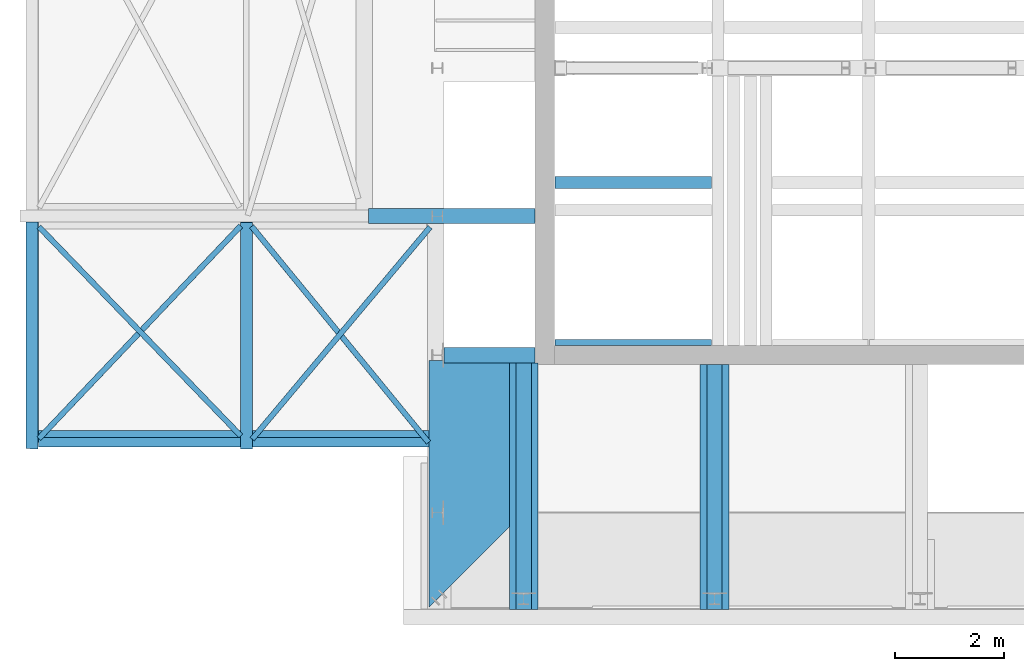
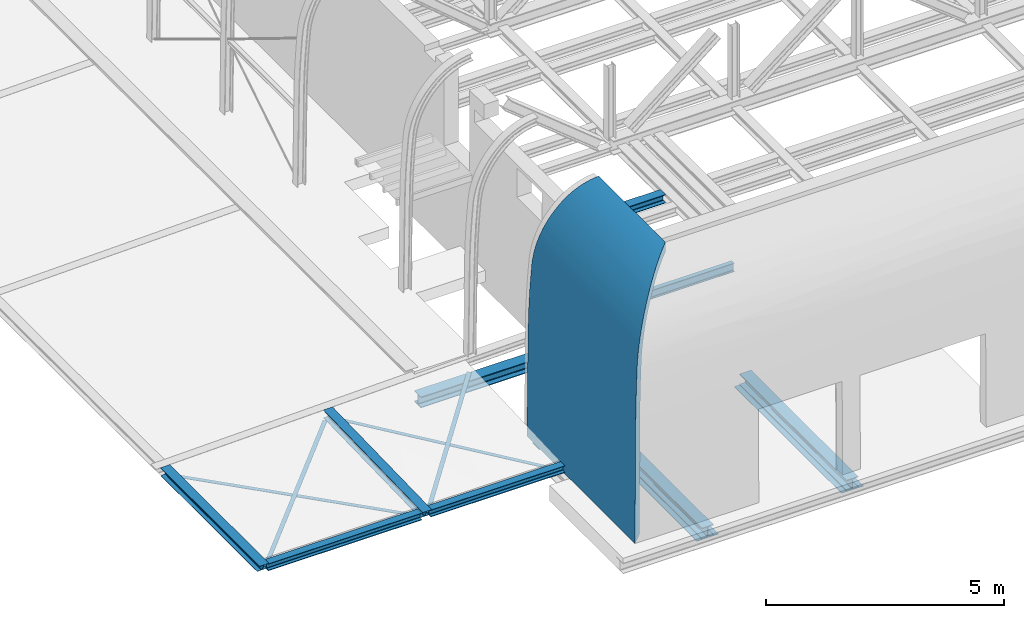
# One storey, part 7 of 29: 15 beams.
"""IFC2X3 building model written with IfcOpenShell, lengths in millimetres."""

from ifc_helpers import new_model, entity, si_unit, converted_unit, derived_unit, direction, frame, frame_2d, origin, place, context, subcontext, project, spatial, polyline, circle_curve, parameter, trimmed, segment, composite_curve, rectangle, i_section, outline, extrude, clip, halfspace, source, transform, mapped, material, material_list, type_object, type_shapes, element, save


model = new_model("IFC2X3")

# Units and contexts
model_context = context("Model", 3, precision=0.01, world=origin(), true_north=direction((6.12303176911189e-17, 1.0)))
body_context = subcontext(model_context, "Body", "Model", "MODEL_VIEW")
ifc_project = project(units=[si_unit("LENGTHUNIT", "METRE", prefix="MILLI"), si_unit("AREAUNIT", "SQUARE_METRE", prefix="MILLI"), si_unit("VOLUMEUNIT", "CUBIC_METRE"), converted_unit("PLANEANGLEUNIT", "DEGREE", entity("IfcRatioMeasure", 0.0174532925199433), si_unit("PLANEANGLEUNIT", "RADIAN"), dimensions=[0, 0, 0, 0, 0, 0, 0]), si_unit("MASSUNIT", "GRAM", prefix="KILO"), derived_unit("MASSDENSITYUNIT", [(si_unit("MASSUNIT", "GRAM", prefix="KILO"), 1), (si_unit("LENGTHUNIT", "METRE"), -3)]), derived_unit("MOMENTOFINERTIAUNIT", [(si_unit("LENGTHUNIT", "METRE"), 4)]), si_unit("TIMEUNIT", "SECOND"), si_unit("FREQUENCYUNIT", "HERTZ"), si_unit("THERMODYNAMICTEMPERATUREUNIT", "DEGREE_CELSIUS"), derived_unit("THERMALTRANSMITTANCEUNIT", [(si_unit("MASSUNIT", "GRAM", prefix="KILO"), 1), (si_unit("THERMODYNAMICTEMPERATUREUNIT", "KELVIN"), -1), (si_unit("TIMEUNIT", "SECOND"), -3)]), derived_unit("VOLUMETRICFLOWRATEUNIT", [(si_unit("LENGTHUNIT", "METRE"), 3), (si_unit("TIMEUNIT", "SECOND"), -1)]), si_unit("ELECTRICCURRENTUNIT", "AMPERE"), si_unit("ELECTRICVOLTAGEUNIT", "VOLT"), si_unit("POWERUNIT", "WATT"), si_unit("FORCEUNIT", "NEWTON", prefix="KILO"), si_unit("ILLUMINANCEUNIT", "LUX"), si_unit("LUMINOUSFLUXUNIT", "LUMEN"), si_unit("LUMINOUSINTENSITYUNIT", "CANDELA"), derived_unit("USERDEFINED", [(si_unit("MASSUNIT", "GRAM", prefix="KILO"), -1), (si_unit("LENGTHUNIT", "METRE"), -2), (si_unit("TIMEUNIT", "SECOND"), 3), (si_unit("LUMINOUSFLUXUNIT", "LUMEN"), 1)]), derived_unit("LINEARVELOCITYUNIT", [(si_unit("LENGTHUNIT", "METRE"), 1), (si_unit("TIMEUNIT", "SECOND"), -1)]), si_unit("PRESSUREUNIT", "PASCAL"), derived_unit("USERDEFINED", [(si_unit("LENGTHUNIT", "METRE"), -2), (si_unit("MASSUNIT", "GRAM", prefix="KILO"), 1), (si_unit("TIMEUNIT", "SECOND"), -2)]), derived_unit("LINEARFORCEUNIT", [(si_unit("MASSUNIT", "GRAM", prefix="KILO"), 1), (si_unit("LENGTHUNIT", "METRE"), 1), (si_unit("TIMEUNIT", "SECOND"), -2), (si_unit("LENGTHUNIT", "METRE"), -1)]), derived_unit("PLANARFORCEUNIT", [(si_unit("MASSUNIT", "GRAM", prefix="KILO"), 1), (si_unit("LENGTHUNIT", "METRE"), 1), (si_unit("TIMEUNIT", "SECOND"), -2), (si_unit("LENGTHUNIT", "METRE"), -2)])], contexts=[model_context])

# Site, building, storey
site_placement = place(None, origin())
site = spatial("IfcSite", under=ifc_project, at=site_placement, Name="Theater aan de Parade", CompositionType="ELEMENT")
building_placement = place(site_placement, origin())
building = spatial("IfcBuilding", under=site, at=building_placement, Name="Theater aan de Parade", CompositionType="ELEMENT")
storey_placement = place(building_placement, frame((0.0, 0.0, 20300.0)))
storey = spatial("IfcBuildingStorey", under=building, at=storey_placement, Name="05 vijfde verdieping", CompositionType="ELEMENT", Elevation=20300.0)

# Beams
ifc_material_1 = material(Name="00_PBT_MAT_staal_S355")
beam_type_1 = type_object("IfcBeamType", Name="28_PBT_SF_staal_H-profiel:S355_HE220B", PredefinedType="NOTDEFINED")
beam_1_placement = place(storey_placement, frame((70715.0, 22811.5, 0.0), z_axis=(0.0, 0.0, 1.0), x_axis=(-1.0, 0.0, 0.0)))
element("IfcBeam", 1, at=beam_1_placement, inside=storey, type_object=beam_type_1, material=ifc_material_1, Name="28_PBT_SF_staal_H-profiel:S355_HE220B", ObjectType="28_PBT_SF_staal_H-profiel:S355_HE220B", context=body_context, shape_type="SweptSolid", body=[
    extrude(outline(composite_curve([segment(polyline([(94.0, -110.0), (110.0, -110.0)]), True, "CONTINUOUS"), segment(polyline([(110.0, -110.0), (110.0, 110.0)]), True, "CONTINUOUS"), segment(polyline([(110.0, 110.0), (94.0, 110.0)]), True, "CONTINUOUS"), segment(polyline([(94.0, 110.0), (94.0, 22.7500000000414)]), True, "CONTINUOUS"), segment(trimmed(circle_curve(frame_2d((76.0, 22.7500000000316), x_axis=(1.0, 0.0)), 18.0000000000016), [parameter(270.0)], [parameter(0.0)], True, "PARAMETER"), False, "CONTINUOUS"), segment(polyline([(76.0, 4.75000000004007), (-76.0, 4.74999999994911)]), True, "CONTINUOUS"), segment(trimmed(circle_curve(frame_2d((-76.0, 22.7499999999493), x_axis=(0.0, -1.0)), 18.0000000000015), [parameter(270.0)], [parameter(0.0)], True, "PARAMETER"), False, "CONTINUOUS"), segment(polyline([(-94.0, 22.7499999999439), (-94.0, 110.0)]), True, "CONTINUOUS"), segment(polyline([(-94.0, 110.0), (-110.0, 110.0)]), True, "CONTINUOUS"), segment(polyline([(-110.0, 110.0), (-110.0, -110.0)]), True, "CONTINUOUS"), segment(polyline([(-110.0, -110.0), (-94.0, -110.0)]), True, "CONTINUOUS"), segment(polyline([(-94.0, -110.0), (-94.0, -22.7500000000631)]), True, "CONTINUOUS"), segment(trimmed(circle_curve(frame_2d((-76.0, -22.7500000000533), x_axis=(-1.0, 0.0)), 17.9999999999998), [parameter(270.0)], [parameter(0.0)], True, "PARAMETER"), False, "CONTINUOUS"), segment(polyline([(-76.0, -4.7500000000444), (76.0, -4.74999999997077)]), True, "CONTINUOUS"), segment(trimmed(circle_curve(frame_2d((76.0, -22.749999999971), x_axis=(0.0, 1.0)), 18.0000000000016), [parameter(270.0)], [parameter(0.0)], True, "PARAMETER"), False, "CONTINUOUS"), segment(polyline([(94.0, -22.7499999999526), (94.0, -110.0)]), True, "CONTINUOUS")], self_intersect=False)), frame((122.699999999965, 0.0, 2360.0), z_axis=(1.0, 0.0, 0.0), x_axis=(0.0, 0.0, -1.0)), (0.0, 0.0, 1.0), 2873.34389903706),
])
beam_type_2 = type_object("IfcBeamType", Name="28_PBT_SF_staal_H-profiel (void):S355_HE280B", PredefinedType="NOTDEFINED")
beam_2_placement = place(storey_placement, frame((65678.9041808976, 19635.0002435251, 0.0)))
element("IfcBeam", 2, at=beam_2_placement, inside=storey, type_object=beam_type_2, material=ifc_material_1, Name="28_PBT_SF_staal_H-profiel (void):S355_HE280B", ObjectType="28_PBT_SF_staal_H-profiel (void):S355_HE280B", context=body_context, shape_type="SweptSolid", body=[
    extrude(outline(composite_curve([segment(polyline([(122.0, -140.0), (140.0, -140.0)]), True, "CONTINUOUS"), segment(polyline([(140.0, -140.0), (140.0, 140.0)]), True, "CONTINUOUS"), segment(polyline([(140.0, 140.0), (122.0, 140.0)]), True, "CONTINUOUS"), segment(polyline([(122.0, 140.0), (122.0, 29.2499999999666)]), True, "CONTINUOUS"), segment(trimmed(circle_curve(frame_2d((98.0, 29.2499999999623), x_axis=(1.0, 0.0)), 23.9999999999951), [parameter(269.999999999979)], [parameter(0.0)], True, "PARAMETER"), False, "CONTINUOUS"), segment(polyline([(98.0, 5.24999999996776), (-98.0, 5.25000000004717)]), True, "CONTINUOUS"), segment(trimmed(circle_curve(frame_2d((-98.0, 29.2500000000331), x_axis=(0.0, -1.0)), 23.9999999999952), [parameter(269.999999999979)], [parameter(0.0)], True, "PARAMETER"), False, "CONTINUOUS"), segment(polyline([(-122.0, 29.250000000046), (-122.0, 140.0)]), True, "CONTINUOUS"), segment(polyline([(-122.0, 140.0), (-140.0, 140.0)]), True, "CONTINUOUS"), segment(polyline([(-140.0, 140.0), (-140.0, -140.0)]), True, "CONTINUOUS"), segment(polyline([(-140.0, -140.0), (-122.0, -140.0)]), True, "CONTINUOUS"), segment(polyline([(-122.0, -140.0), (-122.0, -29.2499999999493)]), True, "CONTINUOUS"), segment(trimmed(circle_curve(frame_2d((-98.0, -29.249999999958), x_axis=(-1.0, 0.0)), 23.9999999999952), [parameter(269.999999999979)], [parameter(0.0)], True, "PARAMETER"), False, "CONTINUOUS"), segment(polyline([(-98.0, -5.24999999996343), (98.0, -5.25000000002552)]), True, "CONTINUOUS"), segment(trimmed(circle_curve(frame_2d((98.0, -29.2500000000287), x_axis=(0.0, 1.0)), 23.9999999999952), [parameter(269.999999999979)], [parameter(0.0)], True, "PARAMETER"), False, "CONTINUOUS"), segment(polyline([(122.0, -29.2500000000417), (122.0, -140.0)]), True, "CONTINUOUS")], self_intersect=False)), frame((0.0, 0.0, -260.0), z_axis=(1.0, 0.0, 0.0), x_axis=(0.0, 0.0, -1.0)), (0.0, 0.0, 1.0), 1677.35192006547),
])
beam_type_3 = type_object("IfcBeamType", Name="28_PBT_SF_staal_H-profiel:S355_HE220A", PredefinedType="NOTDEFINED")
beam_3_placement = place(storey_placement, frame((58114.89761, 17660.0, 53.3503559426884), z_axis=(0.0, 0.0, 1.0), x_axis=(0.0, 1.0, 0.0)))
element("IfcBeam", 3, at=beam_3_placement, inside=storey, type_object=beam_type_3, material=ifc_material_1, Name="28_PBT_SF_staal_H-profiel:S355_HE220A", ObjectType="28_PBT_SF_staal_H-profiel:S355_HE220A", context=body_context, shape_type="Clipping", body=[
    clip(extrude(i_section(OverallWidth=219.999999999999, OverallDepth=210.0, WebThickness=6.99999999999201, FlangeThickness=10.9999999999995, FilletRadius=18.0000000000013, at=frame_2d((-1.28821397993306e-11, -4.65405491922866e-12), x_axis=(1.0, 0.0))), frame((252.844763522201, 2.59326393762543, 104.967971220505), z_axis=(1.0, 0.0, 0.0), x_axis=(0.0, -0.999694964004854, 0.0246977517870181)), (0.0, 0.0, 1.0), 4167.1552364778), halfspace(frame((252.844763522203, -156.495608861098, 212.652695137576), z_axis=(-0.866025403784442, 0.0, -0.499999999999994), x_axis=(-0.499999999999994, 0.0, 0.866025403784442)), False)),
])
beam_type_4 = type_object("IfcBeamType", Name="28_PBT_SF_staal_H-profiel:S355_HE280B", PredefinedType="NOTDEFINED")
beam_4_placement = place(storey_placement, frame((64292.05603639, 22190.0, 0.0)))
element("IfcBeam", 4, at=beam_4_placement, inside=storey, type_object=beam_type_4, material=ifc_material_1, Name="28_PBT_SF_staal_H-profiel:S355_HE280B", ObjectType="28_PBT_SF_staal_H-profiel:S355_HE280B", context=body_context, shape_type="SweptSolid", body=[
    extrude(outline(composite_curve([segment(polyline([(122.0, -140.0), (140.0, -140.0)]), True, "CONTINUOUS"), segment(polyline([(140.0, -140.0), (140.0, 140.0)]), True, "CONTINUOUS"), segment(polyline([(140.0, 140.0), (122.0, 140.0)]), True, "CONTINUOUS"), segment(polyline([(122.0, 140.0), (122.0, 29.2500000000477)]), True, "CONTINUOUS"), segment(trimmed(circle_curve(frame_2d((98.0, 29.2500000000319), x_axis=(1.0, 0.0)), 23.9999999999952), [parameter(269.999999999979)], [parameter(0.0)], True, "PARAMETER"), False, "CONTINUOUS"), segment(polyline([(98.0, 5.25000000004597), (-98.0, 5.24999999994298)]), True, "CONTINUOUS"), segment(trimmed(circle_curve(frame_2d((-98.0, 29.2499999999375), x_axis=(0.0, -1.0)), 23.9999999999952), [parameter(269.999999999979)], [parameter(0.0)], True, "PARAMETER"), False, "CONTINUOUS"), segment(polyline([(-122.0, 29.2499999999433), (-122.0, 140.0)]), True, "CONTINUOUS"), segment(polyline([(-122.0, 140.0), (-140.0, 140.0)]), True, "CONTINUOUS"), segment(polyline([(-140.0, 140.0), (-140.0, -140.0)]), True, "CONTINUOUS"), segment(polyline([(-140.0, -140.0), (-122.0, -140.0)]), True, "CONTINUOUS"), segment(polyline([(-122.0, -140.0), (-122.0, -29.2500000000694)]), True, "CONTINUOUS"), segment(trimmed(circle_curve(frame_2d((-98.0, -29.2500000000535), x_axis=(-1.0, 0.0)), 23.9999999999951), [parameter(269.999999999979)], [parameter(0.0)], True, "PARAMETER"), False, "CONTINUOUS"), segment(polyline([(-98.0, -5.2500000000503), (98.0, -5.24999999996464)]), True, "CONTINUOUS"), segment(trimmed(circle_curve(frame_2d((98.0, -29.2499999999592), x_axis=(0.0, 1.0)), 23.9999999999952), [parameter(269.999999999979)], [parameter(0.0)], True, "PARAMETER"), False, "CONTINUOUS"), segment(polyline([(122.0, -29.2499999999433), (122.0, -140.0)]), True, "CONTINUOUS")], self_intersect=False)), frame((0.0, 0.0, -255.0), z_axis=(1.0, 0.0, 0.0), x_axis=(0.0, 0.0, -1.0)), (0.0, 0.0, 1.0), 3064.20006457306),
])
ifc_material_2 = material(Name="00_PBT_MAT_Lucht")
ifc_material_list_1 = material_list([ifc_material_1, ifc_material_2])
beam_type_5 = type_object("IfcBeamType", Name="28_PBT_SF_staal_H-profiel_met_onderplaat (void):S355_HE280B + onderplaat d=12", PredefinedType="BEAM", material=ifc_material_list_1)
shared_shape_1 = source(origin(), body_context, "Body", "SweptSolid", [
    extrude(i_section(OverallWidth=279.999999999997, OverallDepth=279.999999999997, WebThickness=10.4999999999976, FlangeThickness=18.0000000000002, FilletRadius=24.0000000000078, at=frame_2d((-4.32009983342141e-12, -4.32009983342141e-12), x_axis=(1.0, 0.0))), frame((67143.8171593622, 19495.0002435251, 20035.0), z_axis=(0.0, -1.0, 0.0), x_axis=(-1.0, 0.0, 0.0)), (0.0, 0.0, 1.0), 4533.00024352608),
    extrude(rectangle(XDim=12.0000000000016, YDim=530.000000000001, at=frame_2d((0.0, 0.0), x_axis=(0.0, 1.0))), frame((67143.8171593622, 19495.0002435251, 19889.0), z_axis=(0.0, -1.0, 0.0), x_axis=(-1.0, 0.0, 0.0)), (0.0, 0.0, 1.0), 4533.00024352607),
])
type_shapes(beam_type_5, [shared_shape_1])
beam_5_placement = place(storey_placement, frame((0.0, 0.0, -20300.0)))
element("IfcBeam", 5, at=beam_5_placement, inside=storey, type_object=beam_type_5, material=ifc_material_1, Name="28_PBT_SF_staal_H-profiel_met_onderplaat (void):S355_HE280B + onderplaat d=12", ObjectType="28_PBT_SF_staal_H-profiel_met_onderplaat (void):S355_HE280B + onderplaat d=12", context=body_context, shape_type="MappedRepresentation", body=[
    mapped(shared_shape_1, transform((0.0, 0.0, 0.0), scale=1.0)),
])
ifc_material_list_2 = material_list([ifc_material_2, ifc_material_1])
beam_type_6 = type_object("IfcBeamType", Name="28_PBT_SF_staal_H-profiel_met_onderplaat (void):S355_HE280B + onderplaat d=12", PredefinedType="BEAM", material=ifc_material_list_2)
shared_shape_2 = source(origin(), body_context, "Body", "SweptSolid", [
    extrude(i_section(OverallWidth=279.999999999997, OverallDepth=279.999999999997, WebThickness=10.4999999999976, FlangeThickness=18.0000000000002, FilletRadius=24.0000000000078, at=frame_2d((1.29887212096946e-11, -4.32009983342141e-12), x_axis=(1.0, 0.0))), frame((70649.8592463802, 19460.0002435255, 20035.0), z_axis=(0.0, -1.0, 0.0), x_axis=(-1.0, 0.0, 0.0)), (0.0, 0.0, 1.0), 4498.00024352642),
    extrude(rectangle(XDim=12.0000000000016, YDim=530.000000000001, at=frame_2d((0.0, 0.0), x_axis=(0.0, 1.0))), frame((70649.8592463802, 19460.0002435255, 19889.0), z_axis=(0.0, -1.0, 0.0), x_axis=(-1.0, 0.0, 0.0)), (0.0, 0.0, 1.0), 4498.00024352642),
])
type_shapes(beam_type_6, [shared_shape_2])
beam_6_placement = place(storey_placement, frame((0.0, 0.0, -20300.0)))
element("IfcBeam", 6, at=beam_6_placement, inside=storey, type_object=beam_type_6, material=ifc_material_1, Name="28_PBT_SF_staal_H-profiel_met_onderplaat (void):S355_HE280B + onderplaat d=12", ObjectType="28_PBT_SF_staal_H-profiel_met_onderplaat (void):S355_HE280B + onderplaat d=12", context=body_context, shape_type="MappedRepresentation", body=[
    mapped(shared_shape_2, transform((0.0, 0.0, 0.0), scale=1.0)),
])
ifc_material_3 = material(Name="00_PBT_MAT_staal")
beam_type_7 = type_object("IfcBeamType", Name="28_PBT_SF_staal_strip:strip 100x10", PredefinedType="NOTDEFINED")
beam_7_placement = place(storey_placement, frame((58114.4291315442, 22119.4165452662, 53.3387820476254), z_axis=(-0.000203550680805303, 0.000210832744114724, 0.999999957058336), x_axis=(0.694573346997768, -0.719421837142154, 0.000293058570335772)))
element("IfcBeam", 7, at=beam_7_placement, inside=storey, type_object=beam_type_7, material=ifc_material_3, Name="28_PBT_SF_staal_strip:strip 100x10", ObjectType="28_PBT_SF_staal_strip:strip 100x10", context=body_context, shape_type="SweptSolid", body=[
    extrude(rectangle(XDim=10.0000000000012, YDim=99.9999999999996, at=frame_2d((-4.44089209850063e-16, -3.11572989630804e-12), x_axis=(1.0, 0.0))), frame((174.164699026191, 0.0, -15.0), z_axis=(1.0, 0.0, 0.0), x_axis=(0.0, 0.0, -1.0)), (0.0, 0.0, 1.0), 5340.97226317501),
])
beam_8_placement = place(storey_placement, frame((65533.7593261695, 22119.4165452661, 190.0), z_axis=(-0.0160267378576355, -0.0191057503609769, 0.999689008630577), x_axis=(-0.642472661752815, -0.765902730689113, -0.0249376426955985)))
element("IfcBeam", 8, at=beam_8_placement, inside=storey, type_object=beam_type_7, material=ifc_material_3, Name="28_PBT_SF_staal_strip:strip 100x10", ObjectType="28_PBT_SF_staal_strip:strip 100x10", context=body_context, shape_type="SweptSolid", body=[
    extrude(rectangle(XDim=10.0000000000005, YDim=100.000000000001, at=frame_2d((-4.13002965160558e-14, 1.3926637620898e-12), x_axis=(1.0, 0.0))), frame((174.164699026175, 0.0, -15.0), z_axis=(1.0, 0.0, 0.0), x_axis=(0.0, 0.0, -1.0)), (0.0, 0.0, 1.0), 5085.9224133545),
])
beam_9_placement = place(storey_placement, frame((65506.4936873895, 17895.323092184, 65.0745911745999), z_axis=(0.00991373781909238, -0.0121082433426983, 0.99987754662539), x_axis=(-0.633427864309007, 0.773643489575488, 0.0156490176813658)))
element("IfcBeam", 9, at=beam_9_placement, inside=storey, type_object=beam_type_7, material=ifc_material_3, Name="28_PBT_SF_staal_strip:strip 100x10", ObjectType="28_PBT_SF_staal_strip:strip 100x10", context=body_context, shape_type="SweptSolid", body=[
    extrude(rectangle(XDim=9.99999999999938, YDim=100.000000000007, at=frame_2d((4.03588273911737e-12, -1.07469588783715e-13), x_axis=(0.0, 1.0))), frame((174.164699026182, 0.286643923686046, -14.9972609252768), z_axis=(1.0, 0.0, 0.0), x_axis=(0.0, -0.999817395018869, -0.0191095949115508)), (0.0, 0.0, 1.0), 5132.41955553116),
])
beam_10_placement = place(storey_placement, frame((58114.8976099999, 17974.934889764, 53.3503559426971), z_axis=(-0.0117048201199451, -0.0123339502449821, 0.999855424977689), x_axis=(0.688265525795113, 0.725259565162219, 0.0170037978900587)))
element("IfcBeam", 10, at=beam_10_placement, inside=storey, type_object=beam_type_7, material=ifc_material_3, Name="28_PBT_SF_staal_strip:strip 100x10", ObjectType="28_PBT_SF_staal_strip:strip 100x10", context=body_context, shape_type="SweptSolid", body=[
    extrude(rectangle(XDim=9.9999999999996, YDim=100.000000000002, at=frame_2d((4.63273863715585e-12, 1.06581410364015e-13), x_axis=(0.0, 1.0))), frame((174.164699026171, -0.268723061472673, -14.9975927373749), z_axis=(1.0, 0.0, 0.0), x_axis=(0.0, -0.999839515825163, 0.0179148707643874)), (0.0, 0.0, 1.0), 5386.90007337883),
])
beam_type_8 = type_object("IfcBeamType", Name="28_PBT_SF_staal_H-profiel (void):S355_HE220A", PredefinedType="NOTDEFINED")
beam_11_placement = place(storey_placement, frame((62051.6547583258, 22080.0, 154.5), z_axis=(0.0, -0.0250213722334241, 0.999686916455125), x_axis=(0.0, -0.999686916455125, -0.0250213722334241)))
element("IfcBeam", 11, at=beam_11_placement, inside=storey, type_object=beam_type_8, material=ifc_material_1, Name="28_PBT_SF_staal_H-profiel (void):S355_HE220A", ObjectType="28_PBT_SF_staal_H-profiel (void):S355_HE220A", context=body_context, shape_type="Clipping", body=[
    clip(extrude(outline(composite_curve([segment(polyline([(94.0, -110.0), (105.0, -110.0)]), True, "CONTINUOUS"), segment(polyline([(105.0, -110.0), (105.0, 110.0)]), True, "CONTINUOUS"), segment(polyline([(105.0, 110.0), (94.0, 110.0)]), True, "CONTINUOUS"), segment(polyline([(94.0, 110.0), (94.0, 21.4999999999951)]), True, "CONTINUOUS"), segment(trimmed(circle_curve(frame_2d((76.0, 21.4999999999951), x_axis=(1.0, 0.0)), 17.9999999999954), [parameter(269.999999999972)], [parameter(0.0)], True, "PARAMETER"), False, "CONTINUOUS"), segment(polyline([(76.0, 3.4999999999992), (-76.0, 3.4999999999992)]), True, "CONTINUOUS"), segment(trimmed(circle_curve(frame_2d((-76.0, 21.4999999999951), x_axis=(0.0, -1.0)), 17.9999999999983), [parameter(269.999999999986)], [parameter(0.0)], True, "PARAMETER"), False, "CONTINUOUS"), segment(polyline([(-94.0, 21.4999999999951), (-94.0, 110.0)]), True, "CONTINUOUS"), segment(polyline([(-94.0, 110.0), (-105.0, 110.0)]), True, "CONTINUOUS"), segment(polyline([(-105.0, 110.0), (-105.0, -110.0)]), True, "CONTINUOUS"), segment(polyline([(-105.0, -110.0), (-94.0, -110.0)]), True, "CONTINUOUS"), segment(polyline([(-94.0, -110.0), (-94.0, -21.5000000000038)]), True, "CONTINUOUS"), segment(trimmed(circle_curve(frame_2d((-76.0, -21.5000000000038), x_axis=(-1.0, 0.0)), 17.9999999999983), [parameter(269.999999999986)], [parameter(0.0)], True, "PARAMETER"), False, "CONTINUOUS"), segment(polyline([(-76.0, -3.4999999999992), (76.0, -3.4999999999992)]), True, "CONTINUOUS"), segment(trimmed(circle_curve(frame_2d((76.0, -21.5000000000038), x_axis=(0.0, 1.0)), 17.9999999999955), [parameter(269.999999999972)], [parameter(0.0)], True, "PARAMETER"), False, "CONTINUOUS"), segment(polyline([(94.0, -21.5000000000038), (94.0, -110.0)]), True, "CONTINUOUS")], self_intersect=False)), frame((0.0, 0.0, 105.0), z_axis=(1.0, 0.0, 0.0), x_axis=(0.0, 0.0, -1.0)), (0.0, 0.0, 1.0), 4166.56657179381), halfspace(frame((4193.41718190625, -3780.26153946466, 259.316638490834), z_axis=(0.878264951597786, 0.0, -0.478174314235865), x_axis=(0.478174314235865, 0.0, 0.878264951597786)), False)),
])
beam_type_9 = type_object("IfcBeamType", Name="28_PBT_SF_staal_IPE-profiel:S355_IPE220", PredefinedType="NOTDEFINED")
beam_12_placement = place(storey_placement, frame((70715.0, 19865.0002435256, 0.0), z_axis=(0.0, 0.0, 1.0), x_axis=(-1.0, 0.0, 0.0)))
element("IfcBeam", 12, at=beam_12_placement, inside=storey, type_object=beam_type_9, material=ifc_material_1, Name="28_PBT_SF_staal_IPE-profiel:S355_IPE220", ObjectType="28_PBT_SF_staal_IPE-profiel:S355_IPE220", context=body_context, shape_type="SweptSolid", body=[
    extrude(outline(composite_curve([segment(polyline([(100.800000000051, -55.0), (110.0, -55.0)]), True, "CONTINUOUS"), segment(polyline([(110.0, -55.0), (110.0, 55.0)]), True, "CONTINUOUS"), segment(polyline([(110.0, 55.0), (100.799999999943, 55.0)]), True, "CONTINUOUS"), segment(polyline([(100.799999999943, 55.0), (100.799999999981, 14.9500000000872)]), True, "CONTINUOUS"), segment(trimmed(circle_curve(frame_2d((88.7999999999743, 14.9500000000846), x_axis=(1.0, 0.0)), 12.0000000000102), [parameter(270.000000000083)], [parameter(0.0)], True, "PARAMETER"), False, "CONTINUOUS"), segment(polyline([(88.7999999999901, 2.95000000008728), (-88.8000000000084, 2.94999999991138)]), True, "CONTINUOUS"), segment(trimmed(circle_curve(frame_2d((-88.8000000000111, 14.9499999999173), x_axis=(0.0, -1.0)), 12.0000000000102), [parameter(270.000000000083)], [parameter(0.0)], True, "PARAMETER"), False, "CONTINUOUS"), segment(polyline([(-100.800000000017, 14.949999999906), (-100.800000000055, 55.0)]), True, "CONTINUOUS"), segment(polyline([(-100.800000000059, 55.0), (-110.0, 55.0)]), True, "CONTINUOUS"), segment(polyline([(-110.0, 55.0), (-110.0, -55.0)]), True, "CONTINUOUS"), segment(polyline([(-110.0, -55.0), (-100.799999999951, -55.0)]), True, "CONTINUOUS"), segment(polyline([(-100.799999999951, -55.0), (-100.799999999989, -14.9500000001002)]), True, "CONTINUOUS"), segment(trimmed(circle_curve(frame_2d((-88.7999999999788, -14.9500000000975), x_axis=(-1.0, 0.0)), 12.0000000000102), [parameter(270.000000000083)], [parameter(0.0)], True, "PARAMETER"), False, "CONTINUOUS"), segment(polyline([(-88.7999999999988, -2.95000000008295), (88.8000000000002, -2.94999999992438)]), True, "CONTINUOUS"), segment(trimmed(circle_curve(frame_2d((88.8000000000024, -14.9499999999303), x_axis=(0.0, 1.0)), 12.0000000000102), [parameter(270.000000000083)], [parameter(0.0)], True, "PARAMETER"), False, "CONTINUOUS"), segment(polyline([(100.800000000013, -14.9499999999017), (100.800000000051, -55.0)]), True, "CONTINUOUS")], self_intersect=False)), frame((122.699999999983, 0.0, 2360.0), z_axis=(1.0, 0.0, 0.0), x_axis=(0.0, 0.0, -1.0)), (0.0, 0.0, 1.0), 2873.34389903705),
])
ifc_material_4 = material(Name="00_PBT_MAT_beton prefab")
beam_type_10 = type_object("IfcBeamType", Name="28_PBT_SF_toneeltoren_dakboog:28_PBT_SF_toneeltoren_dakboog as K/2", PredefinedType="NOTDEFINED")
beam_13_placement = place(storey_placement, frame((65653.91096444, 19535.0002435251, 0.0), z_axis=(0.0, 0.0, 1.0), x_axis=(0.0, -1.0, 0.0)))
element("IfcBeam", 13, at=beam_13_placement, inside=storey, type_object=beam_type_10, material=ifc_material_4, Name="28_PBT_SF_toneeltoren_dakboog:28_PBT_SF_toneeltoren_dakboog as K/2", ObjectType="28_PBT_SF_toneeltoren_dakboog:28_PBT_SF_toneeltoren_dakboog as K/2", context=body_context, shape_type="Clipping", body=[
    clip(extrude(outline(composite_curve([segment(polyline([(-617.714724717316, -3694.31772732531), (-367.70115763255, -3694.31772732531)]), True, "CONTINUOUS"), segment(polyline([(-367.70115763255, -3694.31772732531), (-338.363478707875, -958.324560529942)]), True, "CONTINUOUS"), segment(trimmed(circle_curve(frame_2d((19483.9946639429, -1234.80127641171), x_axis=(-0.999902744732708, 0.0139463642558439)), 19824.2861589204), [parameter(355.57204533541)], [parameter(0.0)], True, "PARAMETER"), False, "CONTINUOUS"), segment(trimmed(circle_curve(frame_2d((1466.61288726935, 473.171068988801), x_axis=(-0.998386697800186, 0.0567802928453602)), 1727.25169724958), [parameter(315.909236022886)], [parameter(0.0)], True, "PARAMETER"), False, "CONTINUOUS"), segment(trimmed(circle_curve(frame_2d((1204.11487157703, 814.404694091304), x_axis=(-0.698882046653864, 0.715236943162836)), 1298.98840107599), [parameter(318.71289475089)], [parameter(0.0)], True, "PARAMETER"), False, "CONTINUOUS"), segment(polyline([(1134.99286945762, 2111.55272533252), (1121.68982493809, 2361.19853244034)]), True, "CONTINUOUS"), segment(trimmed(circle_curve(frame_2d((1204.11487157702, 814.404694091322), x_axis=(-0.0532121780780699, 0.998583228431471)), 1548.98840107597), [parameter(0.0)], [parameter(41.1498829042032)], True, "PARAMETER"), True, "CONTINUOUS"), segment(trimmed(circle_curve(frame_2d((1466.61288726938, 473.171068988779), x_axis=(-0.678923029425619, 0.734209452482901)), 1977.25169724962), [parameter(0.0)], [parameter(43.8569338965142)], True, "PARAMETER"), True, "CONTINUOUS"), segment(trimmed(circle_curve(frame_2d((19483.994663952, -1234.80127641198), x_axis=(-0.995860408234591, 0.0908958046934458)), 20074.2861589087), [parameter(0.0)], [parameter(4.41731342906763)], True, "PARAMETER"), True, "CONTINUOUS"), segment(polyline([(-588.345331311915, -955.280428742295), (-617.714724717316, -3694.31772732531)]), True, "CONTINUOUS")], self_intersect=False)), frame((0.0, 367.909522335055, 3714.31772732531), z_axis=(1.0, 0.0, 0.0), x_axis=(0.0, 1.0, 0.0)), (0.0, 0.0, 1.0), 4536.27186635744), halfspace(frame((4300.12986139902, -13.6631974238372, 17918.9585902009), z_axis=(0.707106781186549, 0.707106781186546, 0.0), x_axis=(0.707106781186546, -0.707106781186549, 0.0)), False)),
])
ifc_material_list_3 = material_list([ifc_material_1, ifc_material_2])
beam_type_11 = type_object("IfcBeamType", Name="28_PBT_SF_staal_H-profiel_met_ondergelaste_strip (void):S355_HE180A + ondergelaste strip d=12", PredefinedType="BEAM", material=ifc_material_list_3)
shared_shape_3 = source(origin(), body_context, "Body", "SweptSolid", [
    extrude(outline(composite_curve([segment(polyline([(76.0, -90.0), (85.5000000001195, -90.0)]), True, "CONTINUOUS"), segment(polyline([(85.5000000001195, -90.0), (85.4999999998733, 90.0)]), True, "CONTINUOUS"), segment(polyline([(85.4999999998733, 90.0), (76.0, 90.0)]), True, "CONTINUOUS"), segment(polyline([(76.0, 90.0), (76.0, 18.0)]), True, "CONTINUOUS"), segment(trimmed(circle_curve(frame_2d((61.0, 18.0), x_axis=(1.0, 0.0)), 15.0000000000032), [parameter(270.000000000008)], [parameter(0.0)], True, "PARAMETER"), False, "CONTINUOUS"), segment(polyline([(61.0, 3.0), (-61.0, 3.0)]), True, "CONTINUOUS"), segment(trimmed(circle_curve(frame_2d((-61.0, 18.0), x_axis=(0.0, -1.0)), 15.0000000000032), [parameter(270.000000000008)], [parameter(0.0)], True, "PARAMETER"), False, "CONTINUOUS"), segment(polyline([(-76.0, 18.0), (-76.0, 90.0)]), True, "CONTINUOUS"), segment(polyline([(-76.0, 90.0), (-85.5000000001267, 90.0)]), True, "CONTINUOUS"), segment(polyline([(-85.5000000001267, 90.0), (-85.4999999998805, -90.0)]), True, "CONTINUOUS"), segment(polyline([(-85.4999999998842, -90.0), (-76.0, -90.0)]), True, "CONTINUOUS"), segment(polyline([(-76.0, -90.0), (-76.0, -18.0)]), True, "CONTINUOUS"), segment(trimmed(circle_curve(frame_2d((-61.0, -18.0), x_axis=(-1.0, 0.0)), 15.0000000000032), [parameter(270.000000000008)], [parameter(0.0)], True, "PARAMETER"), False, "CONTINUOUS"), segment(polyline([(-61.0, -3.0), (61.0, -3.0)]), True, "CONTINUOUS"), segment(trimmed(circle_curve(frame_2d((61.0, -18.0), x_axis=(0.0, 1.0)), 15.0000000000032), [parameter(270.000000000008)], [parameter(0.0)], True, "PARAMETER"), False, "CONTINUOUS"), segment(polyline([(76.0, -18.0), (76.0, -90.0)]), True, "CONTINUOUS")], self_intersect=False)), frame((58224.136907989, 18035.0413330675, 20441.5), z_axis=(1.0, 0.0, 0.0), x_axis=(0.0, 0.0, -1.0)), (0.0, 0.0, 1.0), 3717.51785033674),
    extrude(rectangle(XDim=11.9999999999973, YDim=299.999999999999, at=frame_2d((0.0, -1.406874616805e-11), x_axis=(1.0, 0.0))), frame((58225.136907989, 18100.0413330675, 20350.0), z_axis=(1.0, 0.0, 0.0), x_axis=(0.0, 0.0, -1.0)), (0.0, 0.0, 1.0), 3715.51785033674),
])
type_shapes(beam_type_11, [shared_shape_3])
beam_14_placement = place(storey_placement, frame((0.0, 0.0, -20300.0)))
element("IfcBeam", 14, at=beam_14_placement, inside=storey, type_object=beam_type_11, material=ifc_material_1, Name="28_PBT_SF_staal_H-profiel_met_ondergelaste_strip (void):S355_HE180A + ondergelaste strip d=12", ObjectType="28_PBT_SF_staal_H-profiel_met_ondergelaste_strip (void):S355_HE180A + ondergelaste strip d=12", context=body_context, shape_type="MappedRepresentation", body=[
    mapped(shared_shape_3, transform((0.0, 0.0, 0.0), scale=1.0)),
])
ifc_material_list_4 = material_list([ifc_material_1, ifc_material_2])
beam_type_12 = type_object("IfcBeamType", Name="28_PBT_SF_staal_H-profiel_met_ondergelaste_strip (void):S355_HE180A + ondergelaste strip d=12", PredefinedType="BEAM", material=ifc_material_list_4)
shared_shape_4 = source(origin(), body_context, "Body", "SweptSolid", [
    extrude(outline(composite_curve([segment(polyline([(76.0, -90.0), (85.500000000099, -90.0)]), True, "CONTINUOUS"), segment(polyline([(85.500000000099, -90.0), (85.4999999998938, 90.0)]), True, "CONTINUOUS"), segment(polyline([(85.4999999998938, 90.0), (76.0, 90.0)]), True, "CONTINUOUS"), segment(polyline([(76.0, 90.0), (76.0, 18.0)]), True, "CONTINUOUS"), segment(trimmed(circle_curve(frame_2d((61.0, 18.0), x_axis=(1.0, 0.0)), 15.0000000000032), [parameter(270.000000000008)], [parameter(0.0)], True, "PARAMETER"), False, "CONTINUOUS"), segment(polyline([(61.0, 3.0), (-61.0, 3.0)]), True, "CONTINUOUS"), segment(trimmed(circle_curve(frame_2d((-61.0, 18.0), x_axis=(0.0, -1.0)), 15.0000000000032), [parameter(270.000000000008)], [parameter(0.0)], True, "PARAMETER"), False, "CONTINUOUS"), segment(polyline([(-76.0, 18.0), (-76.0, 90.0)]), True, "CONTINUOUS"), segment(polyline([(-76.0, 90.0), (-85.5000000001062, 90.0)]), True, "CONTINUOUS"), segment(polyline([(-85.5000000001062, 90.0), (-85.4999999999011, -90.0)]), True, "CONTINUOUS"), segment(polyline([(-85.4999999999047, -90.0), (-76.0, -90.0)]), True, "CONTINUOUS"), segment(polyline([(-76.0, -90.0), (-76.0, -18.0)]), True, "CONTINUOUS"), segment(trimmed(circle_curve(frame_2d((-61.0, -18.0), x_axis=(-1.0, 0.0)), 15.0000000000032), [parameter(270.000000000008)], [parameter(0.0)], True, "PARAMETER"), False, "CONTINUOUS"), segment(polyline([(-61.0, -3.0), (61.0, -3.0)]), True, "CONTINUOUS"), segment(trimmed(circle_curve(frame_2d((61.0, -18.0), x_axis=(0.0, 1.0)), 15.0000000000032), [parameter(270.000000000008)], [parameter(0.0)], True, "PARAMETER"), False, "CONTINUOUS"), segment(polyline([(76.0, -18.0), (76.0, -90.0)]), True, "CONTINUOUS")], self_intersect=False)), frame((62160.8940563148, 18035.0413330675, 20441.5), z_axis=(1.0, 0.0, 0.0), x_axis=(0.0, 0.0, -1.0)), (0.0, 0.0, 1.0), 3245.31098012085),
    extrude(rectangle(XDim=11.9999999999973, YDim=299.999999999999, at=frame_2d((0.0, -9.74864633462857e-12), x_axis=(1.0, 0.0))), frame((62161.8940563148, 18100.0413330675, 20350.0), z_axis=(1.0, 0.0, 0.0), x_axis=(0.0, 0.0, -1.0)), (0.0, 0.0, 1.0), 3243.31098012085),
])
type_shapes(beam_type_12, [shared_shape_4])
beam_15_placement = place(storey_placement, frame((0.0, 0.0, -20300.0)))
element("IfcBeam", 15, at=beam_15_placement, inside=storey, type_object=beam_type_12, material=ifc_material_1, Name="28_PBT_SF_staal_H-profiel_met_ondergelaste_strip (void):S355_HE180A + ondergelaste strip d=12", ObjectType="28_PBT_SF_staal_H-profiel_met_ondergelaste_strip (void):S355_HE180A + ondergelaste strip d=12", context=body_context, shape_type="MappedRepresentation", body=[
    mapped(shared_shape_4, transform((0.0, 0.0, 0.0), scale=1.0)),
])

save(model, "model.ifc")
